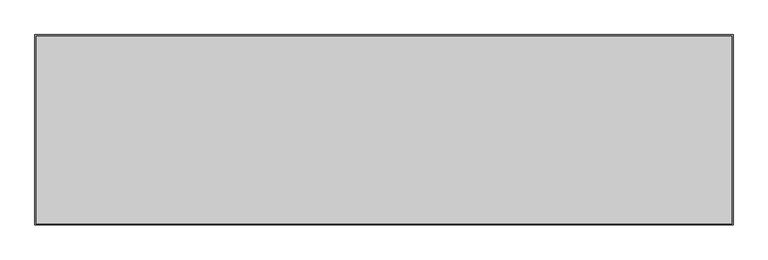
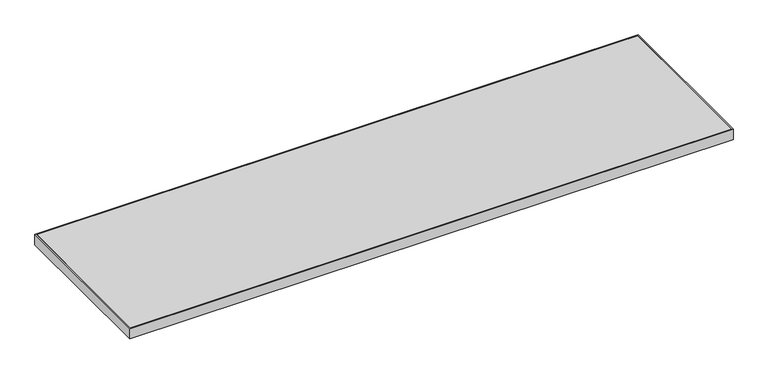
"""IFC4 building model written with IfcOpenShell, lengths in millimetres: furniture geometry, Steelcase - Universal Storage - Square Edge Top - Flush Front - Laminate : Common Top - 18D x 66W."""

from ifc_helpers import new_model, si_unit, frame, origin, place, context, project, spatial, polyline, outline, extrude, source, transform, mapped, element, save


def furniture_f0cc2f91(model_context):
    return source(origin(), model_context, "Body", "SweptSolid", [
        extrude(outline(polyline([(1673.3520001, -3.0479999), (1673.3520001, -454.1520001), (3.0479999, -454.1520001), (3.0479999, -3.0479999), (1673.3520001, -3.0479999)])), frame((0.0, 0.0, 680.72), z_axis=(0.0, 0.0, 1.0), x_axis=(1.0, 0.0, 0.0)), (0.0, 0.0, 1.0), 30.48),
        extrude(outline(polyline([(1676.4, 0.0), (1676.4, -457.2), (0.0, -457.2), (0.0, 0.0), (1676.4, 0.0)]), holes=[polyline([(1673.3520001, -3.0479999), (3.0479999, -3.0479999), (3.0479999, -454.1520001), (1673.3520001, -454.1520001), (1673.3520001, -3.0479999)])]), frame((0.0, 0.0, 680.72), z_axis=(0.0, 0.0, 1.0), x_axis=(1.0, 0.0, 0.0)), (0.0, 0.0, 1.0), 30.48),
    ])


if __name__ == "__main__":
    model = new_model("IFC4")
    model_context = context("Model", 3, world=origin())
    ifc_project = project(units=[si_unit("LENGTHUNIT", "METRE", prefix="MILLI")], contexts=[model_context])
    site = spatial("IfcSite", under=ifc_project)
    building = spatial("IfcBuilding", under=site)
    placement = place(None, origin())
    furniture_shape = furniture_f0cc2f91(model_context)
    element("IfcFurniture", 1, ObjectType="Steelcase - Universal Storage - Square Edge Top - Flush Front - Laminate : Common Top - 18D x 66W", at=placement, inside=building, context=model_context, shape_type="MappedRepresentation", body=[
        mapped(furniture_shape, transform((0.0, 0.0, 0.0), x_axis=(1.0, 0.0, 0.0), y_axis=(0.0, 1.0, 0.0), z_axis=(0.0, 0.0, 1.0))),
    ])
    save(model, "model.ifc")
